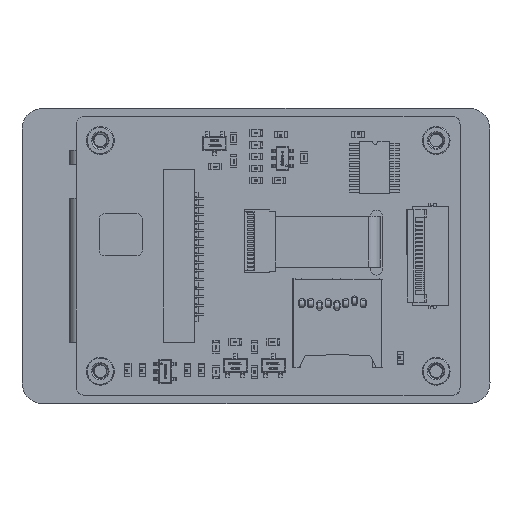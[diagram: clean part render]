
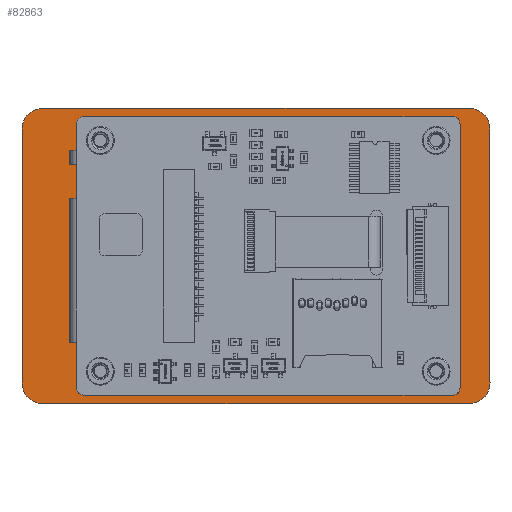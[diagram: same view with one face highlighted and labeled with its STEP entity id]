
A CAD part, top view. The second image highlights one B-rep face of the part: STEP entity #82863.
In plain terms, the highlighted planar face has unit normal (0, 0, 1).
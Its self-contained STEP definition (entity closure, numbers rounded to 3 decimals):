
#4823=CIRCLE('',#87714,2.6);
#4825=CIRCLE('',#87718,2.6);
#4827=CIRCLE('',#87722,2.6);
#4829=CIRCLE('',#87726,2.6);
#5441=FACE_BOUND('',#14226,.T.);
#9665=FACE_OUTER_BOUND('',#14225,.T.);
#14225=EDGE_LOOP('',(#75259,#75260,#75261,#75262,#75263,#75264,#75265,#75266));
#14226=EDGE_LOOP('',(#75267,#75268,#75269,#75270));
#23782=LINE('',#153464,#33350);
#23786=LINE('',#153472,#33354);
#23789=LINE('',#153478,#33357);
#23792=LINE('',#153483,#33360);
#23796=LINE('',#153493,#33364);
#23800=LINE('',#153505,#33368);
#23804=LINE('',#153517,#33372);
#23808=LINE('',#153529,#33376);
#33350=VECTOR('',#106353,10.);
#33354=VECTOR('',#106359,10.);
#33357=VECTOR('',#106364,10.);
#33360=VECTOR('',#106369,10.);
#33364=VECTOR('',#106377,10.);
#33368=VECTOR('',#106389,10.);
#33372=VECTOR('',#106401,10.);
#33376=VECTOR('',#106413,10.);
#40873=VERTEX_POINT('',#153462);
#40874=VERTEX_POINT('',#153463);
#40877=VERTEX_POINT('',#153471);
#40879=VERTEX_POINT('',#153477);
#40883=VERTEX_POINT('',#153490);
#40884=VERTEX_POINT('',#153492);
#40886=VERTEX_POINT('',#153498);
#40888=VERTEX_POINT('',#153504);
#40890=VERTEX_POINT('',#153510);
#40892=VERTEX_POINT('',#153516);
#40894=VERTEX_POINT('',#153522);
#40896=VERTEX_POINT('',#153528);
#52328=EDGE_CURVE('',#40873,#40874,#23782,.T.);
#52332=EDGE_CURVE('',#40874,#40877,#23786,.T.);
#52335=EDGE_CURVE('',#40877,#40879,#23789,.T.);
#52338=EDGE_CURVE('',#40879,#40873,#23792,.T.);
#52342=EDGE_CURVE('',#40884,#40883,#23796,.T.);
#52345=EDGE_CURVE('',#40886,#40884,#4823,.T.);
#52348=EDGE_CURVE('',#40888,#40886,#23800,.T.);
#52351=EDGE_CURVE('',#40890,#40888,#4825,.T.);
#52354=EDGE_CURVE('',#40892,#40890,#23804,.T.);
#52357=EDGE_CURVE('',#40894,#40892,#4827,.T.);
#52360=EDGE_CURVE('',#40896,#40894,#23808,.T.);
#52363=EDGE_CURVE('',#40883,#40896,#4829,.T.);
#75259=ORIENTED_EDGE('',*,*,#52363,.T.);
#75260=ORIENTED_EDGE('',*,*,#52360,.T.);
#75261=ORIENTED_EDGE('',*,*,#52357,.T.);
#75262=ORIENTED_EDGE('',*,*,#52354,.T.);
#75263=ORIENTED_EDGE('',*,*,#52351,.T.);
#75264=ORIENTED_EDGE('',*,*,#52348,.T.);
#75265=ORIENTED_EDGE('',*,*,#52345,.T.);
#75266=ORIENTED_EDGE('',*,*,#52342,.T.);
#75267=ORIENTED_EDGE('',*,*,#52328,.T.);
#75268=ORIENTED_EDGE('',*,*,#52332,.T.);
#75269=ORIENTED_EDGE('',*,*,#52335,.T.);
#75270=ORIENTED_EDGE('',*,*,#52338,.T.);
#78637=PLANE('',#87727);
#82863=ADVANCED_FACE('',(#9665,#5441),#78637,.T.);
#87714=AXIS2_PLACEMENT_3D('',#153499,#106383,#106384);
#87718=AXIS2_PLACEMENT_3D('',#153511,#106395,#106396);
#87722=AXIS2_PLACEMENT_3D('',#153523,#106407,#106408);
#87726=AXIS2_PLACEMENT_3D('',#153533,#106419,#106420);
#87727=AXIS2_PLACEMENT_3D('',#153534,#106421,#106422);
#106353=DIRECTION('',(0.,1.,0.));
#106359=DIRECTION('',(1.,0.,0.));
#106364=DIRECTION('',(0.,-1.,0.));
#106369=DIRECTION('',(-1.,0.,0.));
#106377=DIRECTION('',(1.,0.,0.));
#106383=DIRECTION('center_axis',(0.,0.,1.));
#106384=DIRECTION('ref_axis',(-0.707,-0.707,0.));
#106389=DIRECTION('',(0.,-1.,0.));
#106395=DIRECTION('center_axis',(0.,0.,1.));
#106396=DIRECTION('ref_axis',(-0.707,0.707,0.));
#106401=DIRECTION('',(-1.,0.,0.));
#106407=DIRECTION('center_axis',(0.,0.,1.));
#106408=DIRECTION('ref_axis',(0.707,0.707,0.));
#106413=DIRECTION('',(0.,1.,0.));
#106419=DIRECTION('center_axis',(0.,0.,1.));
#106420=DIRECTION('ref_axis',(0.707,-0.707,0.));
#106421=DIRECTION('center_axis',(0.,0.,1.));
#106422=DIRECTION('ref_axis',(1.,0.,0.));
#153462=CARTESIAN_POINT('',(-15.495,-19.06,1.1));
#153463=CARTESIAN_POINT('',(-15.495,22.14,1.1));
#153464=CARTESIAN_POINT('',(-15.495,11.07,1.1));
#153471=CARTESIAN_POINT('',(15.495,22.14,1.1));
#153472=CARTESIAN_POINT('',(7.748,22.14,1.1));
#153477=CARTESIAN_POINT('',(15.495,-19.06,1.1));
#153478=CARTESIAN_POINT('',(15.495,-9.53,1.1));
#153483=CARTESIAN_POINT('',(-7.748,-19.06,1.1));
#153490=CARTESIAN_POINT('',(15.95,-29.4,1.1));
#153492=CARTESIAN_POINT('',(-15.95,-29.4,1.1));
#153493=CARTESIAN_POINT('',(18.55,-29.4,1.1));
#153498=CARTESIAN_POINT('',(-18.55,-26.8,1.1));
#153499=CARTESIAN_POINT('Origin',(-15.95,-26.8,1.1));
#153504=CARTESIAN_POINT('',(-18.55,26.8,1.1));
#153505=CARTESIAN_POINT('',(-18.55,-29.4,1.1));
#153510=CARTESIAN_POINT('',(-15.95,29.4,1.1));
#153511=CARTESIAN_POINT('Origin',(-15.95,26.8,1.1));
#153516=CARTESIAN_POINT('',(15.95,29.4,1.1));
#153517=CARTESIAN_POINT('',(-18.55,29.4,1.1));
#153522=CARTESIAN_POINT('',(18.55,26.8,1.1));
#153523=CARTESIAN_POINT('Origin',(15.95,26.8,1.1));
#153528=CARTESIAN_POINT('',(18.55,-26.8,1.1));
#153529=CARTESIAN_POINT('',(18.55,29.4,1.1));
#153533=CARTESIAN_POINT('Origin',(15.95,-26.8,1.1));
#153534=CARTESIAN_POINT('Origin',(0.,0.,1.1));
